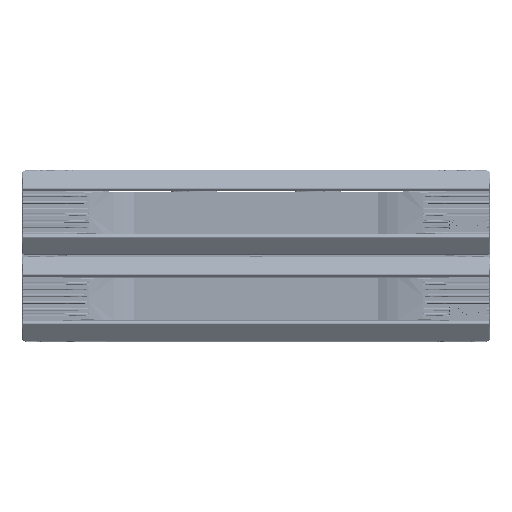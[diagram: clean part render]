
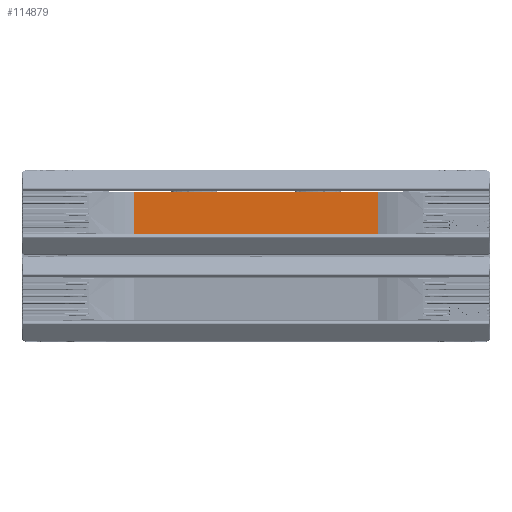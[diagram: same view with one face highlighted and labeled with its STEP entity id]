
A CAD part, top view. The second image highlights one B-rep face of the part: STEP entity #114879.
In plain terms, the highlighted planar face has unit normal (0, 0, 1).
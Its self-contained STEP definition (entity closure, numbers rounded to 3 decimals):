
#22828 = CARTESIAN_POINT ( 'NONE',  ( 2.725, -0.846, 0. ) ) ;
#22867 = CARTESIAN_POINT ( 'NONE',  ( 4.934, -0.846, 0. ) ) ;
#22981 = CARTESIAN_POINT ( 'NONE',  ( -2.775, -0.846, 0. ) ) ;
#23215 = CARTESIAN_POINT ( 'NONE',  ( 2.775, -0.846, 0. ) ) ;
#23314 = CARTESIAN_POINT ( 'NONE',  ( 2.775, 0.846, 0. ) ) ;
#23485 = CARTESIAN_POINT ( 'NONE',  ( -2.725, -0.846, 0. ) ) ;
#23551 = CARTESIAN_POINT ( 'NONE',  ( 4.934, 0.846, 0. ) ) ;
#24012 = CARTESIAN_POINT ( 'NONE',  ( -4.934, -0.846, 0. ) ) ;
#41266 = VECTOR ( 'NONE', #217997, 39.37 ) ;
#41275 = LINE ( 'NONE', #217994, #41266 ) ;
#52006 = CARTESIAN_POINT ( 'NONE',  ( 10.473, -0.846, 0. ) ) ;
#52008 = DIRECTION ( 'NONE',  ( -1., 0., 0. ) ) ;
#52422 = CARTESIAN_POINT ( 'NONE',  ( 4.934, 0.874, 0. ) ) ;
#52424 = DIRECTION ( 'NONE',  ( 0., -1., 0. ) ) ;
#53083 = CARTESIAN_POINT ( 'NONE',  ( -10.473, -0.846, 0. ) ) ;
#53085 = DIRECTION ( 'NONE',  ( 1., 0., 0. ) ) ;
#78342 = ORIENTED_EDGE ( 'NONE', *, *, #149187, .F. ) ;
#79286 = ORIENTED_EDGE ( 'NONE', *, *, #150465, .T. ) ;
#79293 = ORIENTED_EDGE ( 'NONE', *, *, #146568, .T. ) ;
#79312 = ORIENTED_EDGE ( 'NONE', *, *, #147273, .F. ) ;
#79317 = ORIENTED_EDGE ( 'NONE', *, *, #147212, .T. ) ;
#79326 = ORIENTED_EDGE ( 'NONE', *, *, #149544, .T. ) ;
#80652 = ORIENTED_EDGE ( 'NONE', *, *, #149264, .F. ) ;
#80655 = ORIENTED_EDGE ( 'NONE', *, *, #147076, .T. ) ;
#80661 = ORIENTED_EDGE ( 'NONE', *, *, #147051, .F. ) ;
#80670 = ORIENTED_EDGE ( 'NONE', *, *, #148827, .F. ) ;
#80677 = ORIENTED_EDGE ( 'NONE', *, *, #147071, .T. ) ;
#80680 = ORIENTED_EDGE ( 'NONE', *, *, #148819, .F. ) ;
#105157 = CARTESIAN_POINT ( 'NONE',  ( -9.405, 1.612, 0. ) ) ;
#105158 = PLANE ( 'NONE',  #113082 ) ;
#105169 = DIRECTION ( 'NONE',  ( 0., 0., 1. ) ) ;
#105171 = DIRECTION ( 'NONE',  ( 1., 0., 0. ) ) ;
#107244 = VERTEX_POINT ( 'NONE', #176046 ) ;
#108555 = VERTEX_POINT ( 'NONE', #177560 ) ;
#109209 = VERTEX_POINT ( 'NONE', #183724 ) ;
#110431 = VERTEX_POINT ( 'NONE', #184879 ) ;
#113082 = AXIS2_PLACEMENT_3D ( 'NONE', #105157, #105169, #105171 ) ;
#114879 = ADVANCED_FACE ( 'NONE', ( #172389 ), #105158, .T. ) ;
#116598 = CARTESIAN_POINT ( 'NONE',  ( -4.934, 0.874, 0. ) ) ;
#116609 = DIRECTION ( 'NONE',  ( 0., -1., 0. ) ) ;
#117487 = CARTESIAN_POINT ( 'NONE',  ( 9.405, 0.846, 0. ) ) ;
#117489 = DIRECTION ( 'NONE',  ( 1., 0., 0. ) ) ;
#117514 = CARTESIAN_POINT ( 'NONE',  ( -9.405, 0.846, 0. ) ) ;
#117516 = DIRECTION ( 'NONE',  ( -1., 0., 0. ) ) ;
#117518 = CARTESIAN_POINT ( 'NONE',  ( 10.473, 0.846, 0. ) ) ;
#117520 = DIRECTION ( 'NONE',  ( -1., 0., 0. ) ) ;
#146568 = EDGE_CURVE ( 'NONE', #108555, #319575, #175916, .T. ) ;
#147051 = EDGE_CURVE ( 'NONE', #107244, #319147, #176513, .T. ) ;
#147071 = EDGE_CURVE ( 'NONE', #110431, #109209, #176531, .T. ) ;
#147076 = EDGE_CURVE ( 'NONE', #319292, #319147, #176544, .T. ) ;
#147212 = EDGE_CURVE ( 'NONE', #318850, #319087, #176669, .T. ) ;
#147273 = EDGE_CURVE ( 'NONE', #319252, #318944, #176759, .T. ) ;
#148819 = EDGE_CURVE ( 'NONE', #108555, #109209, #202796, .T. ) ;
#148827 = EDGE_CURVE ( 'NONE', #110431, #107244, #202754, .T. ) ;
#149187 = EDGE_CURVE ( 'NONE', #318874, #319087, #203969, .T. ) ;
#149264 = EDGE_CURVE ( 'NONE', #319292, #318874, #204332, .T. ) ;
#149544 = EDGE_CURVE ( 'NONE', #319252, #318850, #205133, .T. ) ;
#150465 = EDGE_CURVE ( 'NONE', #319575, #318944, #41275, .T. ) ;
#172389 = FACE_OUTER_BOUND ( 'NONE', #318188, .T. ) ;
#175905 = VECTOR ( 'NONE', #116609, 39.37 ) ;
#175916 = LINE ( 'NONE', #116598, #175905 ) ;
#176046 = CARTESIAN_POINT ( 'NONE',  ( 2.725, 0.846, 0. ) ) ;
#176513 = LINE ( 'NONE', #117487, #176517 ) ;
#176517 = VECTOR ( 'NONE', #117489, 39.37 ) ;
#176531 = LINE ( 'NONE', #117514, #176538 ) ;
#176538 = VECTOR ( 'NONE', #117516, 39.37 ) ;
#176544 = LINE ( 'NONE', #117518, #176549 ) ;
#176549 = VECTOR ( 'NONE', #117520, 39.37 ) ;
#176669 = LINE ( 'NONE', #211774, #176717 ) ;
#176717 = VECTOR ( 'NONE', #211799, 39.37 ) ;
#176759 = LINE ( 'NONE', #212004, #176798 ) ;
#176798 = VECTOR ( 'NONE', #212009, 39.37 ) ;
#177560 = CARTESIAN_POINT ( 'NONE',  ( -4.934, 0.846, 0. ) ) ;
#183724 = CARTESIAN_POINT ( 'NONE',  ( -2.775, 0.846, 0. ) ) ;
#184879 = CARTESIAN_POINT ( 'NONE',  ( -2.725, 0.846, 0. ) ) ;
#202722 = VECTOR ( 'NONE', #240099, 39.37 ) ;
#202754 = LINE ( 'NONE', #240094, #202819 ) ;
#202796 = LINE ( 'NONE', #240009, #202722 ) ;
#202819 = VECTOR ( 'NONE', #240116, 39.37 ) ;
#203969 = LINE ( 'NONE', #52006, #203985 ) ;
#203985 = VECTOR ( 'NONE', #52008, 39.37 ) ;
#204332 = LINE ( 'NONE', #52422, #204337 ) ;
#204337 = VECTOR ( 'NONE', #52424, 39.37 ) ;
#205133 = LINE ( 'NONE', #53083, #205178 ) ;
#205178 = VECTOR ( 'NONE', #53085, 39.37 ) ;
#211774 = CARTESIAN_POINT ( 'NONE',  ( 9.405, -0.846, 0. ) ) ;
#211799 = DIRECTION ( 'NONE',  ( 1., 0., 0. ) ) ;
#212004 = CARTESIAN_POINT ( 'NONE',  ( -9.405, -0.846, 0. ) ) ;
#212009 = DIRECTION ( 'NONE',  ( -1., 0., 0. ) ) ;
#217994 = CARTESIAN_POINT ( 'NONE',  ( -10.473, -0.846, 0. ) ) ;
#217997 = DIRECTION ( 'NONE',  ( 1., 0., 0. ) ) ;
#240009 = CARTESIAN_POINT ( 'NONE',  ( -10.473, 0.846, 0. ) ) ;
#240094 = CARTESIAN_POINT ( 'NONE',  ( -10.473, 0.846, 0. ) ) ;
#240099 = DIRECTION ( 'NONE',  ( 1., 0., 0. ) ) ;
#240116 = DIRECTION ( 'NONE',  ( 1., 0., 0. ) ) ;
#318188 = EDGE_LOOP ( 'NONE', ( #79293, #79286, #79312, #79326, #79317, #78342, #80652, #80655, #80661, #80670, #80677, #80680 ) ) ;
#318850 = VERTEX_POINT ( 'NONE', #22828 ) ;
#318874 = VERTEX_POINT ( 'NONE', #22867 ) ;
#318944 = VERTEX_POINT ( 'NONE', #22981 ) ;
#319087 = VERTEX_POINT ( 'NONE', #23215 ) ;
#319147 = VERTEX_POINT ( 'NONE', #23314 ) ;
#319252 = VERTEX_POINT ( 'NONE', #23485 ) ;
#319292 = VERTEX_POINT ( 'NONE', #23551 ) ;
#319575 = VERTEX_POINT ( 'NONE', #24012 ) ;
